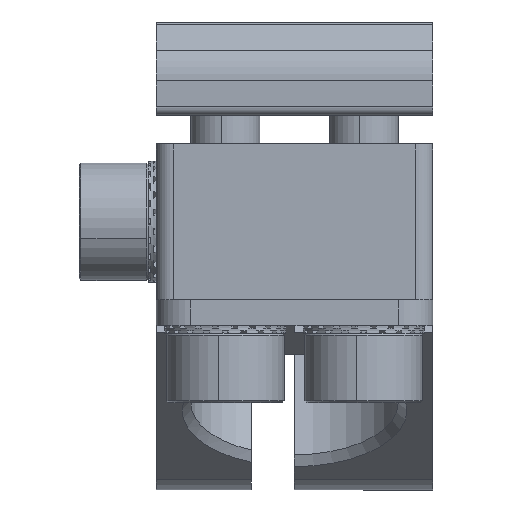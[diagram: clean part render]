
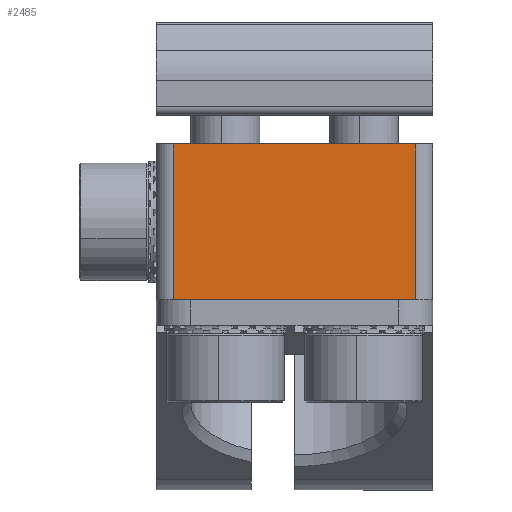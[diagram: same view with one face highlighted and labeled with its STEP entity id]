
A CAD part, left-side view. The second image highlights one B-rep face of the part: STEP entity #2485.
In plain terms, the highlighted planar face has unit normal (-1, 0, 0).
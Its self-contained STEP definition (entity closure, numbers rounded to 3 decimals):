
#264 = CARTESIAN_POINT ( 'NONE',  ( -43.037, 2.565, 9.499 ) ) ;
#863 = ORIENTED_EDGE ( 'NONE', *, *, #2497, .T. ) ;
#916 = EDGE_LOOP ( 'NONE', ( #8528, #9187, #5988, #863 ) ) ;
#971 = VECTOR ( 'NONE', #4913, 1000. ) ;
#1260 = DIRECTION ( 'NONE',  ( 0., 0., 1. ) ) ;
#1273 = LINE ( 'NONE', #4000, #971 ) ;
#1423 = LINE ( 'NONE', #1714, #5944 ) ;
#1714 = CARTESIAN_POINT ( 'NONE',  ( -43.037, 9.565, 0.499 ) ) ;
#2485 = ADVANCED_FACE ( 'NONE', ( #6347 ), #4872, .F. ) ;
#2497 = EDGE_CURVE ( 'NONE', #3807, #3504, #3671, .T. ) ;
#2511 = EDGE_CURVE ( 'NONE', #5144, #3504, #1273, .T. ) ;
#2533 = CARTESIAN_POINT ( 'NONE',  ( -43.037, 2.565, 9.499 ) ) ;
#2630 = CARTESIAN_POINT ( 'NONE',  ( -43.037, 16.565, 9.499 ) ) ;
#3504 = VERTEX_POINT ( 'NONE', #2533 ) ;
#3671 = LINE ( 'NONE', #8466, #5796 ) ;
#3807 = VERTEX_POINT ( 'NONE', #10560 ) ;
#4000 = CARTESIAN_POINT ( 'NONE',  ( -43.037, 9.565, 9.499 ) ) ;
#4511 = VECTOR ( 'NONE', #5302, 1000. ) ;
#4872 = PLANE ( 'NONE',  #10851 ) ;
#4913 = DIRECTION ( 'NONE',  ( 0., -1., 0. ) ) ;
#5142 = EDGE_CURVE ( 'NONE', #5455, #3807, #1423, .T. ) ;
#5144 = VERTEX_POINT ( 'NONE', #2630 ) ;
#5302 = DIRECTION ( 'NONE',  ( 0., 0., 1. ) ) ;
#5455 = VERTEX_POINT ( 'NONE', #11197 ) ;
#5763 = DIRECTION ( 'NONE',  ( 0., 0., -1. ) ) ;
#5796 = VECTOR ( 'NONE', #1260, 1000. ) ;
#5944 = VECTOR ( 'NONE', #8922, 1000. ) ;
#5988 = ORIENTED_EDGE ( 'NONE', *, *, #5142, .T. ) ;
#6347 = FACE_OUTER_BOUND ( 'NONE', #916, .T. ) ;
#7574 = EDGE_CURVE ( 'NONE', #5455, #5144, #9284, .T. ) ;
#8466 = CARTESIAN_POINT ( 'NONE',  ( -43.037, 2.565, 4.999 ) ) ;
#8528 = ORIENTED_EDGE ( 'NONE', *, *, #2511, .F. ) ;
#8835 = CARTESIAN_POINT ( 'NONE',  ( -43.037, 16.565, 4.999 ) ) ;
#8922 = DIRECTION ( 'NONE',  ( 0., -1., 0. ) ) ;
#9187 = ORIENTED_EDGE ( 'NONE', *, *, #7574, .F. ) ;
#9284 = LINE ( 'NONE', #8835, #4511 ) ;
#10560 = CARTESIAN_POINT ( 'NONE',  ( -43.037, 2.565, 0.499 ) ) ;
#10851 = AXIS2_PLACEMENT_3D ( 'NONE', #264, #11152, #5763 ) ;
#11152 = DIRECTION ( 'NONE',  ( 1., 0., 0. ) ) ;
#11197 = CARTESIAN_POINT ( 'NONE',  ( -43.037, 16.565, 0.499 ) ) ;
